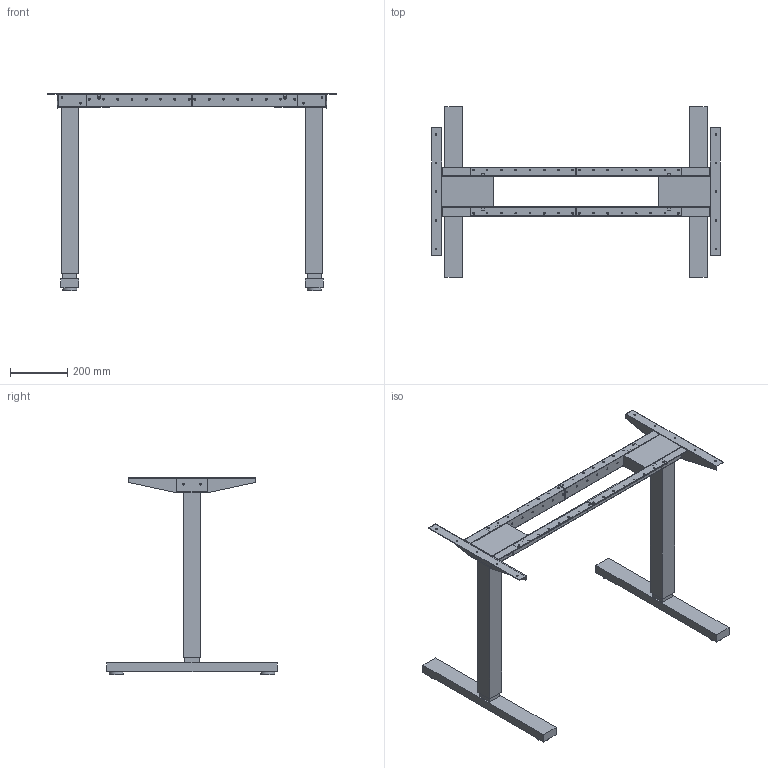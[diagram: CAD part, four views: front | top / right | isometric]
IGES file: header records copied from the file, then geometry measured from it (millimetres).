
Start section: Data from Parasolid IGES Translator 20.0.26, Copyright(c) 2006 Siemens P LM Software. All Rights Reserved.
Global section: file name: 9309793.igs; native system: By Siemens PLM Incorporated; preprocessor: XPlus GENERIC/IGES 20.0.26; author: Noname; organization: Noname; date: 20220302.131209; units: millimetre
Bounding box: 1010 x 597.22 x 690 mm (x, y, z)
Surface area: 1246903.8 mm2 (no closed solid volume)
Topology: 0 solids, 0 shells, 284 faces, 1508 edges, 1328 vertices
Faces by surface type: extrusion 150, revolution 134
